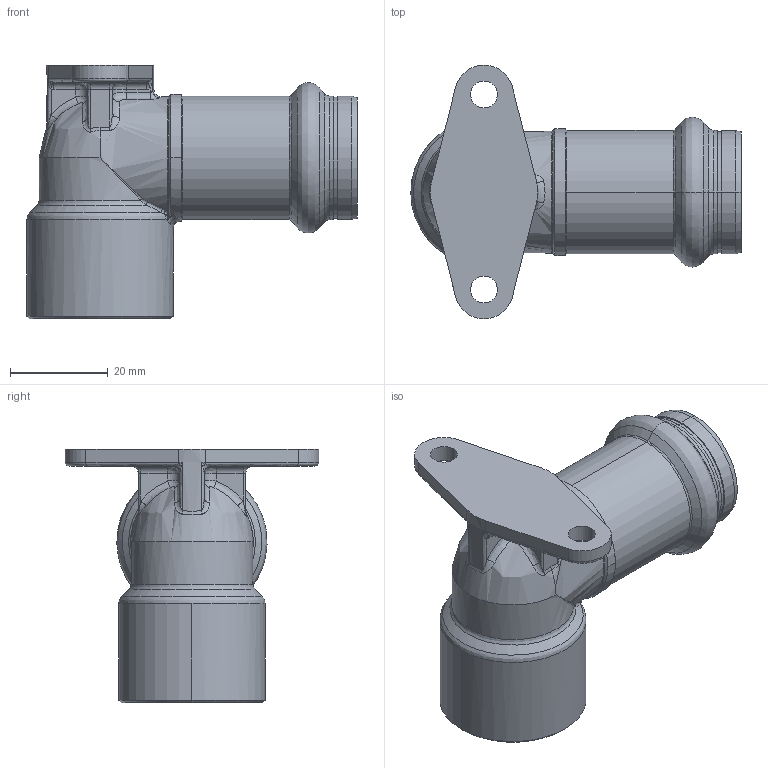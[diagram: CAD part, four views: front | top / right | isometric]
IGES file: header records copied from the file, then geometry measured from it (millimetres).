
Start section: Elysium IGES Interface
Global section: file name: C:\3d modellen sudo\S-Pr VP\SP6471GV\6471GVW2234.igs; native system: CoCreate Modeling 17.00A  17-Jun-2010; preprocessor: CoCreate IGES_3D V2.2; author: Unknown; organization: Unknown; date: 20130129.100752; units: millimetre
Bounding box: 67.7 x 51.96 x 52 mm (x, y, z)
Volume: 20063.1 mm3; surface area: 15629.3 mm2
Topology: 1 solids, 3 shells, 219 faces, 521 edges, 296 vertices
Faces by surface type: bspline 219
